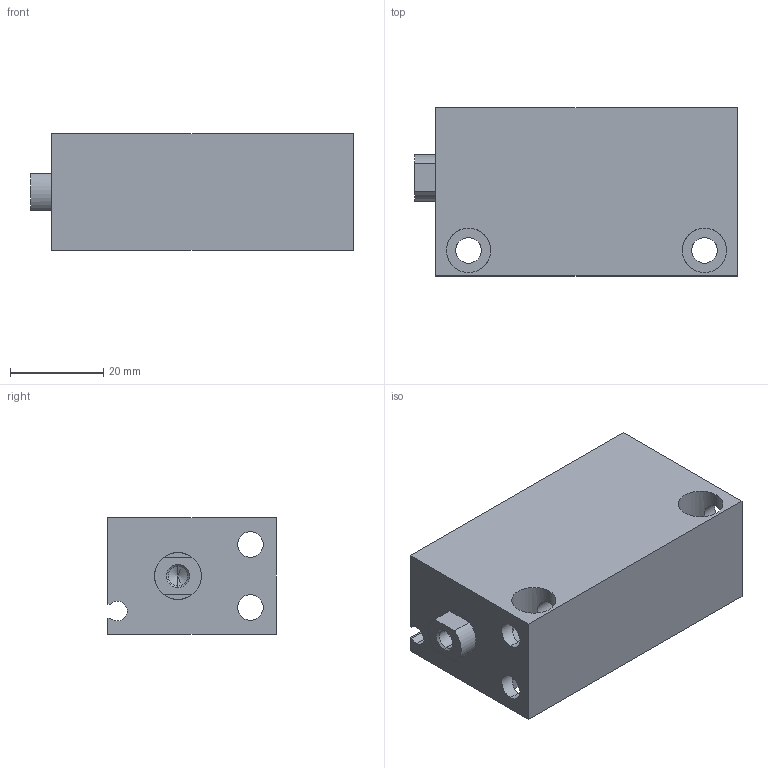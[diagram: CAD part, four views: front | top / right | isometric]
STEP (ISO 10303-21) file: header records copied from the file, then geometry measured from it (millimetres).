
FILE_DESCRIPTION (( 'STEP AP203' ), '1' );
FILE_NAME ('CLJB20-45.STEP', '2020-07-30T19:27:30', ( '' ), ( '' ), 'SwSTEP 2.0', 'SolidWorks 2019', '' );
FILE_SCHEMA (( 'CONFIG_CONTROL_DESIGN' ));
Length unit declared in the file: millimetre
Products named in the file (1): CLJB20-45
Bounding box: 69 x 36 x 25 mm (x, y, z)
Volume: 41541.6 mm3; surface area: 19063.6 mm2
Topology: 2 solids, 2 shells, 75 faces, 188 edges, 113 vertices
Faces by surface type: cylinder 41, plane 22, cone 12
Entity records: 3255 total; most frequent: CARTESIAN_POINT 1359, DIRECTION 394, ORIENTED_EDGE 364, EDGE_CURVE 182, AXIS2_PLACEMENT_3D 152, VERTEX_POINT 113, EDGE_LOOP 93, VECTOR 90
